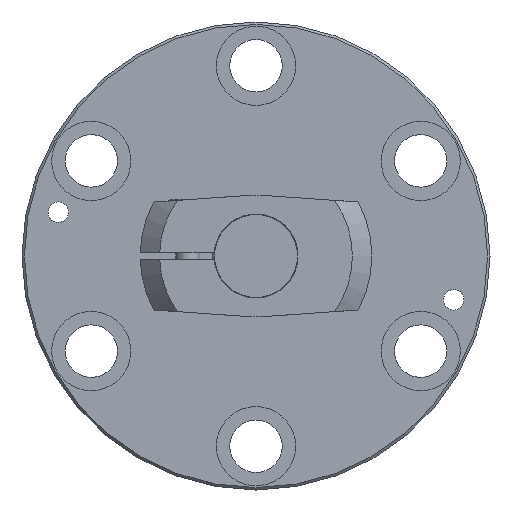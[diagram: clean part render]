
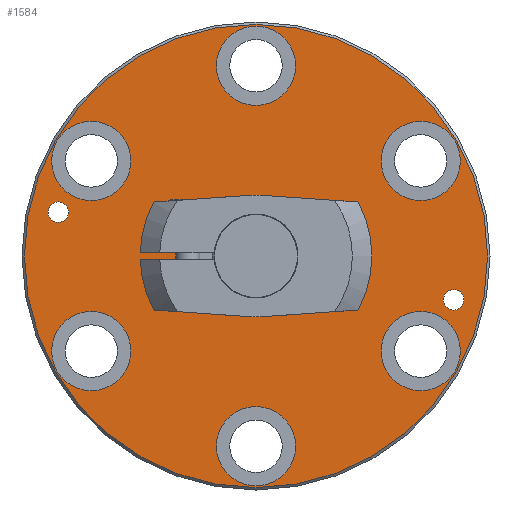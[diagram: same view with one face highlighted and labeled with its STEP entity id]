
A CAD part, left-side view. The second image highlights one B-rep face of the part: STEP entity #1584.
In plain terms, the highlighted planar face has unit normal (-1, 0, 0).
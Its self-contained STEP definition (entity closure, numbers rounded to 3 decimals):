
#39=FACE_BOUND('',#315,.T.);
#40=FACE_BOUND('',#316,.T.);
#41=FACE_BOUND('',#317,.T.);
#42=FACE_BOUND('',#318,.T.);
#43=FACE_BOUND('',#319,.T.);
#44=FACE_BOUND('',#320,.T.);
#45=FACE_BOUND('',#321,.T.);
#46=FACE_BOUND('',#322,.T.);
#47=FACE_BOUND('',#323,.T.);
#125=PLANE('',#1806);
#207=FACE_OUTER_BOUND('',#314,.T.);
#314=EDGE_LOOP('',(#1372));
#315=EDGE_LOOP('',(#1373));
#316=EDGE_LOOP('',(#1374,#1375));
#317=EDGE_LOOP('',(#1376,#1377));
#318=EDGE_LOOP('',(#1378,#1379));
#319=EDGE_LOOP('',(#1380,#1381));
#320=EDGE_LOOP('',(#1382,#1383));
#321=EDGE_LOOP('',(#1384,#1385));
#322=EDGE_LOOP('',(#1386,#1387));
#323=EDGE_LOOP('',(#1388,#1389));
#519=CIRCLE('',#1706,24.96);
#551=CIRCLE('',#1751,94.95);
#552=CIRCLE('',#1753,4.188);
#553=CIRCLE('',#1754,4.188);
#554=CIRCLE('',#1756,4.188);
#555=CIRCLE('',#1757,4.188);
#559=CIRCLE('',#1763,16.25);
#560=CIRCLE('',#1764,16.25);
#564=CIRCLE('',#1771,16.25);
#565=CIRCLE('',#1772,16.25);
#569=CIRCLE('',#1779,16.25);
#570=CIRCLE('',#1780,16.25);
#574=CIRCLE('',#1787,16.25);
#575=CIRCLE('',#1788,16.25);
#579=CIRCLE('',#1795,16.25);
#580=CIRCLE('',#1796,16.25);
#584=CIRCLE('',#1803,16.25);
#585=CIRCLE('',#1804,16.25);
#673=VERTEX_POINT('',#2744);
#704=VERTEX_POINT('',#2828);
#705=VERTEX_POINT('',#2832);
#706=VERTEX_POINT('',#2833);
#707=VERTEX_POINT('',#2838);
#708=VERTEX_POINT('',#2839);
#712=VERTEX_POINT('',#2851);
#713=VERTEX_POINT('',#2852);
#717=VERTEX_POINT('',#2866);
#718=VERTEX_POINT('',#2867);
#722=VERTEX_POINT('',#2881);
#723=VERTEX_POINT('',#2882);
#727=VERTEX_POINT('',#2896);
#728=VERTEX_POINT('',#2897);
#732=VERTEX_POINT('',#2911);
#733=VERTEX_POINT('',#2912);
#737=VERTEX_POINT('',#2926);
#738=VERTEX_POINT('',#2927);
#866=EDGE_CURVE('',#673,#673,#519,.T.);
#907=EDGE_CURVE('',#704,#704,#551,.T.);
#908=EDGE_CURVE('',#705,#706,#552,.T.);
#909=EDGE_CURVE('',#706,#705,#553,.T.);
#911=EDGE_CURVE('',#707,#708,#554,.T.);
#912=EDGE_CURVE('',#708,#707,#555,.T.);
#917=EDGE_CURVE('',#712,#713,#559,.T.);
#918=EDGE_CURVE('',#713,#712,#560,.T.);
#924=EDGE_CURVE('',#717,#718,#564,.T.);
#925=EDGE_CURVE('',#718,#717,#565,.T.);
#931=EDGE_CURVE('',#722,#723,#569,.T.);
#932=EDGE_CURVE('',#723,#722,#570,.T.);
#938=EDGE_CURVE('',#727,#728,#574,.T.);
#939=EDGE_CURVE('',#728,#727,#575,.T.);
#945=EDGE_CURVE('',#732,#733,#579,.T.);
#946=EDGE_CURVE('',#733,#732,#580,.T.);
#952=EDGE_CURVE('',#737,#738,#584,.T.);
#953=EDGE_CURVE('',#738,#737,#585,.T.);
#1372=ORIENTED_EDGE('',*,*,#907,.F.);
#1373=ORIENTED_EDGE('',*,*,#866,.T.);
#1374=ORIENTED_EDGE('',*,*,#952,.T.);
#1375=ORIENTED_EDGE('',*,*,#953,.T.);
#1376=ORIENTED_EDGE('',*,*,#945,.T.);
#1377=ORIENTED_EDGE('',*,*,#946,.T.);
#1378=ORIENTED_EDGE('',*,*,#938,.T.);
#1379=ORIENTED_EDGE('',*,*,#939,.T.);
#1380=ORIENTED_EDGE('',*,*,#931,.T.);
#1381=ORIENTED_EDGE('',*,*,#932,.T.);
#1382=ORIENTED_EDGE('',*,*,#924,.T.);
#1383=ORIENTED_EDGE('',*,*,#925,.T.);
#1384=ORIENTED_EDGE('',*,*,#917,.T.);
#1385=ORIENTED_EDGE('',*,*,#918,.T.);
#1386=ORIENTED_EDGE('',*,*,#911,.T.);
#1387=ORIENTED_EDGE('',*,*,#912,.T.);
#1388=ORIENTED_EDGE('',*,*,#908,.T.);
#1389=ORIENTED_EDGE('',*,*,#909,.T.);
#1584=ADVANCED_FACE('',(#207,#39,#40,#41,#42,#43,#44,#45,#46,#47),#125,
 .T.);
#1706=AXIS2_PLACEMENT_3D('',#2745,#2059,#2060);
#1751=AXIS2_PLACEMENT_3D('',#2830,#2158,#2159);
#1753=AXIS2_PLACEMENT_3D('',#2834,#2162,#2163);
#1754=AXIS2_PLACEMENT_3D('',#2835,#2164,#2165);
#1756=AXIS2_PLACEMENT_3D('',#2840,#2169,#2170);
#1757=AXIS2_PLACEMENT_3D('',#2841,#2171,#2172);
#1763=AXIS2_PLACEMENT_3D('',#2853,#2184,#2185);
#1764=AXIS2_PLACEMENT_3D('',#2854,#2186,#2187);
#1771=AXIS2_PLACEMENT_3D('',#2868,#2202,#2203);
#1772=AXIS2_PLACEMENT_3D('',#2869,#2204,#2205);
#1779=AXIS2_PLACEMENT_3D('',#2883,#2220,#2221);
#1780=AXIS2_PLACEMENT_3D('',#2884,#2222,#2223);
#1787=AXIS2_PLACEMENT_3D('',#2898,#2238,#2239);
#1788=AXIS2_PLACEMENT_3D('',#2899,#2240,#2241);
#1795=AXIS2_PLACEMENT_3D('',#2913,#2256,#2257);
#1796=AXIS2_PLACEMENT_3D('',#2914,#2258,#2259);
#1803=AXIS2_PLACEMENT_3D('',#2928,#2274,#2275);
#1804=AXIS2_PLACEMENT_3D('',#2929,#2276,#2277);
#1806=AXIS2_PLACEMENT_3D('',#2933,#2282,#2283);
#2059=DIRECTION('center_axis',(1.,0.,0.));
#2060=DIRECTION('ref_axis',(0.,0.,
-1.));
#2158=DIRECTION('center_axis',(1.,0.,0.));
#2159=DIRECTION('ref_axis',(0.,-1.,0.));
#2162=DIRECTION('center_axis',(1.,0.,0.));
#2163=DIRECTION('ref_axis',(0.,0.,1.));
#2164=DIRECTION('center_axis',(1.,0.,0.));
#2165=DIRECTION('ref_axis',(0.,0.,1.));
#2169=DIRECTION('center_axis',(1.,0.,0.));
#2170=DIRECTION('ref_axis',(0.,0.,1.));
#2171=DIRECTION('center_axis',(1.,0.,0.));
#2172=DIRECTION('ref_axis',(0.,0.,1.));
#2184=DIRECTION('center_axis',(1.,0.,0.));
#2185=DIRECTION('ref_axis',(0.,0.866,0.5));
#2186=DIRECTION('center_axis',(1.,0.,0.));
#2187=DIRECTION('ref_axis',(0.,0.866,0.5));
#2202=DIRECTION('center_axis',(1.,0.,0.));
#2203=DIRECTION('ref_axis',(0.,0.866,-0.5));
#2204=DIRECTION('center_axis',(1.,0.,0.));
#2205=DIRECTION('ref_axis',(0.,0.866,-0.5));
#2220=DIRECTION('center_axis',(1.,0.,0.));
#2221=DIRECTION('ref_axis',(0.,0.,-1.));
#2222=DIRECTION('center_axis',(1.,0.,0.));
#2223=DIRECTION('ref_axis',(0.,0.,-1.));
#2238=DIRECTION('center_axis',(1.,0.,0.));
#2239=DIRECTION('ref_axis',(0.,-0.866,-0.5));
#2240=DIRECTION('center_axis',(1.,0.,0.));
#2241=DIRECTION('ref_axis',(0.,-0.866,-0.5));
#2256=DIRECTION('center_axis',(1.,0.,0.));
#2257=DIRECTION('ref_axis',(0.,-0.866,0.5));
#2258=DIRECTION('center_axis',(1.,0.,0.));
#2259=DIRECTION('ref_axis',(0.,-0.866,0.5));
#2274=DIRECTION('center_axis',(1.,0.,0.));
#2275=DIRECTION('ref_axis',(0.,0.,1.));
#2276=DIRECTION('center_axis',(1.,0.,0.));
#2277=DIRECTION('ref_axis',(0.,0.,1.));
#2282=DIRECTION('center_axis',(-1.,0.,0.));
#2283=DIRECTION('ref_axis',(0.,0.,1.));
#2744=CARTESIAN_POINT('',(0.,0.,24.96));
#2745=CARTESIAN_POINT('Origin',(0.,0.,
0.));
#2828=CARTESIAN_POINT('',(0.,94.95,0.));
#2830=CARTESIAN_POINT('Origin',(0.,0.,0.));
#2832=CARTESIAN_POINT('',(0.,81.033,22.152));
#2833=CARTESIAN_POINT('',(0.,81.033,13.776));
#2834=CARTESIAN_POINT('Origin',(0.,81.033,17.964));
#2835=CARTESIAN_POINT('Origin',(0.,81.033,17.964));
#2838=CARTESIAN_POINT('',(0.,-81.033,-13.776));
#2839=CARTESIAN_POINT('',(0.,-81.033,-22.152));
#2840=CARTESIAN_POINT('Origin',(0.,-81.033,-17.964));
#2841=CARTESIAN_POINT('Origin',(0.,-81.033,-17.964));
#2851=CARTESIAN_POINT('',(0.,-53.477,47.125));
#2852=CARTESIAN_POINT('',(0.,-81.623,30.875));
#2853=CARTESIAN_POINT('Origin',(0.,-67.55,
39.));
#2854=CARTESIAN_POINT('Origin',(0.,-67.55,
39.));
#2866=CARTESIAN_POINT('',(0.,14.073,69.875));
#2867=CARTESIAN_POINT('',(0.,-14.073,86.125));
#2868=CARTESIAN_POINT('Origin',(0.,0.,
78.));
#2869=CARTESIAN_POINT('Origin',(0.,0.,
78.));
#2881=CARTESIAN_POINT('',(0.,67.55,22.75));
#2882=CARTESIAN_POINT('',(0.,67.55,55.25));
#2883=CARTESIAN_POINT('Origin',(0.,67.55,
39.));
#2884=CARTESIAN_POINT('Origin',(0.,67.55,
39.));
#2896=CARTESIAN_POINT('',(0.,53.477,-47.125));
#2897=CARTESIAN_POINT('',(0.,81.623,-30.875));
#2898=CARTESIAN_POINT('Origin',(0.,67.55,
-39.));
#2899=CARTESIAN_POINT('Origin',(0.,67.55,
-39.));
#2911=CARTESIAN_POINT('',(0.,-14.073,-69.875));
#2912=CARTESIAN_POINT('',(0.,14.073,-86.125));
#2913=CARTESIAN_POINT('Origin',(0.,0.,
-78.));
#2914=CARTESIAN_POINT('Origin',(0.,0.,
-78.));
#2926=CARTESIAN_POINT('',(0.,-67.55,-22.75));
#2927=CARTESIAN_POINT('',(0.,-67.55,-55.25));
#2928=CARTESIAN_POINT('Origin',(0.,-67.55,
-39.));
#2929=CARTESIAN_POINT('Origin',(0.,-67.55,
-39.));
#2933=CARTESIAN_POINT('Origin',(0.,61.225,0.));
